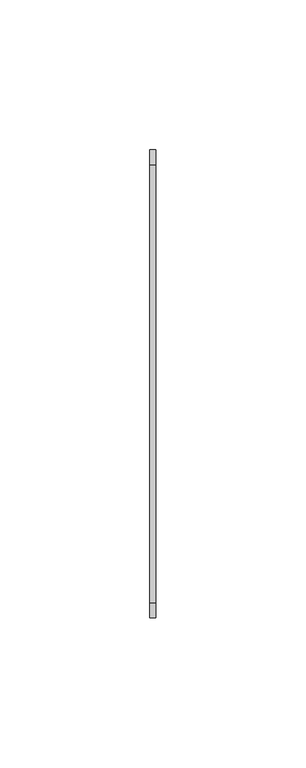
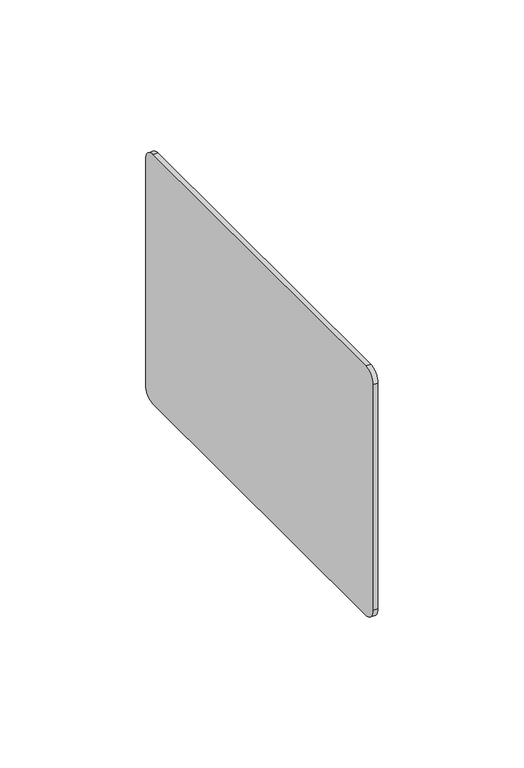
"""IFC4 building model written with IfcOpenShell, lengths in millimetres: proxy geometry, Zakończenie RENODRAIN : Zakończenie RENODRAIN."""

import ifcopenshell
import ifcopenshell.guid

model = None  # the IFC model being written
_history = None  # IfcOwnerHistory: only IFC2X3 demands one
_inside = {}  # id of a spatial element -> (the spatial element, [elements in it])
_under = {}  # id of a project, library or spatial element -> (it, [spatial elements below it])
_declared = {}  # id of a project -> (the project, [libraries it declares])
_typed = {}  # id of a type object -> (the type object, [elements of that type])
_made_of = {}  # id of a material, layer set ... -> (it, [elements and type objects made of it])


def new_model(schema):
    """Start an empty IFC model of exactly this schema.

    Asked for "IFC4X3", IfcOpenShell would pick the latest addendum, in which some entities
    have other attributes; the version numbers below select the first issue.
    IFC2X3 requires an IfcOwnerHistory on every rooted entity: one is made here for all.
    """
    global model, _history
    if schema == "IFC4X3":
        model = ifcopenshell.file(schema_version=(4, 3, 0, 0))
    else:
        model = ifcopenshell.file(schema=schema)
    _inside.clear()
    _under.clear()
    _declared.clear()
    _typed.clear()
    _made_of.clear()
    _history = None
    if model.schema == "IFC2X3":
        org = make("IfcOrganization", Name="unknown")
        user = make(
            "IfcPersonAndOrganization",
            ThePerson=make("IfcPerson", FamilyName="unknown"),
            TheOrganization=org,
        )
        app = make(
            "IfcApplication",
            ApplicationDeveloper=org,
            Version="unknown",
            ApplicationFullName="unknown",
            ApplicationIdentifier="unknown",
        )
        _history = make(
            "IfcOwnerHistory",
            OwningUser=user,
            OwningApplication=app,
            ChangeAction="ADDED",
            CreationDate=0,
        )
    return model


def make(cls, **values):
    """One entity of the class cls with the attributes given. An attribute that is None is left unset."""
    return model.create_entity(
        cls, **{name: value for name, value in values.items() if value is not None}
    )


def rooted(cls, **values):
    """An entity with a GlobalId (a new one), such as an element, a storey or a relation."""
    return make(cls, GlobalId=ifcopenshell.guid.new(), OwnerHistory=_history, **values)


def si_unit(unit_type, name, prefix=None):
    """IfcSIUnit, for example si_unit("LENGTHUNIT", "METRE", prefix="MILLI")."""
    return make("IfcSIUnit", UnitType=unit_type, Prefix=prefix, Name=name)


def assignment(units):
    """IfcUnitAssignment: the units of a project."""
    return None if units is None else make("IfcUnitAssignment", Units=units)


def point(xyz):
    """IfcCartesianPoint."""
    return None if xyz is None else make("IfcCartesianPoint", Coordinates=xyz)


def direction(xyz):
    """IfcDirection."""
    return None if xyz is None else make("IfcDirection", DirectionRatios=xyz)


def frame(location, z_axis=None, x_axis=None):
    """IfcAxis2Placement3D, a coordinate frame: its origin and axes. An axis left out is left unset."""
    return make(
        "IfcAxis2Placement3D",
        Location=point(location),
        Axis=direction(z_axis),
        RefDirection=direction(x_axis),
    )


def frame_2d(location, x_axis=None):
    """IfcAxis2Placement2D, a coordinate frame in the plane: its origin and x axis."""
    return make(
        "IfcAxis2Placement2D", Location=point(location), RefDirection=direction(x_axis)
    )


def origin():
    """The frame at (0, 0, 0) with its axes left unset."""
    return frame((0.0, 0.0, 0.0))


def place(relative_to, where):
    """IfcLocalPlacement: puts the frame where relative to a parent placement (None: the world)."""
    return make(
        "IfcLocalPlacement", PlacementRelTo=relative_to, RelativePlacement=where
    )


def context(
    kind, dimensions, precision=None, world=None, true_north=None, identifier=None
):
    """IfcGeometricRepresentationContext, for example the 3D "Model" context."""
    return make(
        "IfcGeometricRepresentationContext",
        ContextIdentifier=identifier,
        ContextType=kind,
        CoordinateSpaceDimension=dimensions,
        Precision=precision,
        WorldCoordinateSystem=world,
        TrueNorth=true_north,
    )


def project(units=None, contexts=None):
    """IfcProject with its units and contexts."""
    return rooted(
        "IfcProject",
        Name="project",
        RepresentationContexts=contexts,
        UnitsInContext=assignment(units),
    )


def spatial(cls, under=None, at=None, **own):
    """A site, building, storey or space (cls), placed at a placement, below another one or the project."""
    s = rooted(cls, ObjectPlacement=at, **own)
    if under is not None:
        _under.setdefault(under.id(), (under, []))[1].append(s)
    return s


def polyline(points):
    """IfcPolyline through the points."""
    return make("IfcPolyline", Points=[point(p) for p in points])


def circle_curve(where, radius):
    """IfcCircle in the frame where."""
    return make("IfcCircle", Position=where, Radius=radius)


def trimmed(basis, trim1, trim2, sense, master):
    """IfcTrimmedCurve: the piece of a basis curve between two trims."""
    return make(
        "IfcTrimmedCurve",
        BasisCurve=basis,
        Trim1=trim1,
        Trim2=trim2,
        SenseAgreement=sense,
        MasterRepresentation=master,
    )


def segment(curve, same_sense, transition):
    """IfcCompositeCurveSegment."""
    return make(
        "IfcCompositeCurveSegment",
        Transition=transition,
        SameSense=same_sense,
        ParentCurve=curve,
    )


def composite_curve(segments, self_intersect=None):
    """IfcCompositeCurve: segments joined end to end."""
    return make("IfcCompositeCurve", Segments=segments, SelfIntersect=self_intersect)


def outline(outer, holes=None, kind="AREA"):
    """IfcArbitraryClosedProfileDef: a profile drawn as a closed curve; with holes, ...WithVoids."""
    if holes is None:
        return make("IfcArbitraryClosedProfileDef", ProfileType=kind, OuterCurve=outer)
    return make(
        "IfcArbitraryProfileDefWithVoids",
        ProfileType=kind,
        OuterCurve=outer,
        InnerCurves=holes,
    )


def extrude(swept, where, along, depth):
    """IfcExtrudedAreaSolid: the profile swept, set in the frame where, extruded along a direction by depth."""
    return make(
        "IfcExtrudedAreaSolid",
        SweptArea=swept,
        Position=where,
        ExtrudedDirection=direction(along),
        Depth=depth,
    )


def shape(context_of_items, identifier, shape_type, items):
    """IfcShapeRepresentation: the items that make up one representation, for example the "Body"."""
    return make(
        "IfcShapeRepresentation",
        ContextOfItems=context_of_items,
        RepresentationIdentifier=identifier,
        RepresentationType=shape_type,
        Items=items,
    )


def source(mapping_origin, context_of_items, identifier, shape_type, items):
    """IfcRepresentationMap: a shape defined once, which mapped items show again and again."""
    return make(
        "IfcRepresentationMap",
        MappingOrigin=mapping_origin,
        MappedRepresentation=shape(context_of_items, identifier, shape_type, items),
    )


def transform(
    local_origin,
    x_axis=None,
    y_axis=None,
    z_axis=None,
    scale=None,
    scale2=None,
    scale3=None,
    uniform=True,
):
    """IfcCartesianTransformationOperator3D, or its non-uniform kind. x_axis, y_axis, z_axis: its Axis1, 2, 3."""
    if uniform:
        return make(
            "IfcCartesianTransformationOperator3D",
            Axis1=direction(x_axis),
            Axis2=direction(y_axis),
            LocalOrigin=point(local_origin),
            Scale=scale,
            Axis3=direction(z_axis),
        )
    return make(
        "IfcCartesianTransformationOperator3DnonUniform",
        Axis1=direction(x_axis),
        Axis2=direction(y_axis),
        LocalOrigin=point(local_origin),
        Scale=scale,
        Axis3=direction(z_axis),
        Scale2=scale2,
        Scale3=scale3,
    )


def mapped(mapping_source, mapping_target):
    """IfcMappedItem: shows the shape of a source again, moved by a transform."""
    return make(
        "IfcMappedItem", MappingSource=mapping_source, MappingTarget=mapping_target
    )


def made_of(thing, what):
    """Note that an element or type object is made of a material, layer set ...; save() writes the relation."""
    if what is not None:
        _made_of.setdefault(what.id(), (what, []))[1].append(thing)
    return thing


def element(
    cls,
    number,
    at=None,
    inside=None,
    cuts=None,
    type_object=None,
    material=None,
    context=None,
    identifier="Body",
    shape_type=None,
    held_by="IfcProductDefinitionShape",
    body=None,
    shapes=None,
    **own,
):
    """One element of the class cls, such as IfcWall. Its Tag is "e" and its number.

    at: its placement. inside: the storey or other place that contains it. cuts: it is an
    opening in that element (IfcRelVoidsElement). A single representation is given by context,
    identifier, shape_type and body (its items); several are given by shapes. held_by: the class
    of the entity that holds the representations. save() writes the other relations.
    """
    e = rooted(cls, Tag="e%d" % number, ObjectPlacement=at, **own)
    if body is not None:
        shapes = [shape(context, identifier, shape_type, body)]
    if shapes is not None:
        e.Representation = make(held_by, Representations=shapes)
    if inside is not None:
        _inside.setdefault(inside.id(), (inside, []))[1].append(e)
    if cuts is not None:
        rooted(
            "IfcRelVoidsElement", RelatingBuildingElement=cuts, RelatedOpeningElement=e
        )
    if type_object is not None:
        _typed.setdefault(type_object.id(), (type_object, []))[1].append(e)
    return made_of(e, material)


def aggregate(whole, parts):
    """IfcRelAggregates: a whole, such as a stair, and the parts it consists of."""
    return rooted("IfcRelAggregates", RelatingObject=whole, RelatedObjects=parts)


def save(model, path):
    """Write the relations noted so far, then the file.

    IfcRelAggregates (storeys below a building ...), IfcRelContainedInSpatialStructure (elements
    in a storey), IfcRelDefinesByType, IfcRelAssociatesMaterial and IfcRelDeclares: one each for
    every whole, place, type object, material and project.
    """
    for whole, parts in _under.values():
        aggregate(whole, parts)
    for where, things in _inside.values():
        rooted(
            "IfcRelContainedInSpatialStructure",
            RelatedElements=things,
            RelatingStructure=where,
        )
    for kind, things in _typed.values():
        rooted("IfcRelDefinesByType", RelatedObjects=things, RelatingType=kind)
    for what, things in _made_of.values():
        rooted("IfcRelAssociatesMaterial", RelatedObjects=things, RelatingMaterial=what)
    for by, libraries in _declared.values():
        rooted("IfcRelDeclares", RelatingContext=by, RelatedDefinitions=libraries)
    model.write(path)


def generic_models_f545b3be(model_context):
    return source(origin(), model_context, "Body", "SweptSolid", [
        extrude(outline(composite_curve([segment(trimmed(circle_curve(frame_2d((-141.0, 37.0)), 5.0), [point((-146.0, 37.0))], [point((-141.0, 42.0))], False, "CARTESIAN"), True, "CONTINUOUS"), segment(polyline([(-141.0, 42.0), (5.0, 42.0)]), True, "CONTINUOUS"), segment(trimmed(circle_curve(frame_2d((5.0, 37.0)), 5.0), [point((5.0, 42.0))], [point((10.0, 37.0))], False, "CARTESIAN"), True, "CONTINUOUS"), segment(polyline([(10.0, 37.0), (10.0, -57.5000001)]), True, "CONTINUOUS"), segment(trimmed(circle_curve(frame_2d((5.0, -57.5000001)), 5.0), [point((10.0, -57.5000001))], [point((5.0, -62.5000001))], False, "CARTESIAN"), True, "CONTINUOUS"), segment(polyline([(5.0, -62.5000001), (-141.0, -62.5000001)]), True, "CONTINUOUS"), segment(trimmed(circle_curve(frame_2d((-141.0, -57.5000001)), 5.0), [point((-141.0, -62.5000001))], [point((-146.0, -57.5000001))], False, "CARTESIAN"), True, "CONTINUOUS"), segment(polyline([(-146.0, -57.5000001), (-146.0, 37.0)]), True, "CONTINUOUS")], self_intersect=False)), frame((-3.0, 0.0, 0.0), z_axis=(1.0, 0.0, 0.0), x_axis=(0.0, 1.0, 0.0)), (0.0, 0.0, 1.0), 2.0),
    ])


if __name__ == "__main__":
    model = new_model("IFC4")
    model_context = context("Model", 3, world=origin())
    ifc_project = project(units=[si_unit("LENGTHUNIT", "METRE", prefix="MILLI")], contexts=[model_context])
    site = spatial("IfcSite", under=ifc_project)
    building = spatial("IfcBuilding", under=site)
    placement = place(None, origin())
    generic_models_shape = generic_models_f545b3be(model_context)
    element("IfcBuildingElementProxy", 1, Name="Zakończenie RENODRAIN : Zakończenie RENODRAIN", ObjectType="Zakończenie RENODRAIN : Zakończenie RENODRAIN", at=placement, inside=building, context=model_context, shape_type="MappedRepresentation", body=[
        mapped(generic_models_shape, transform((0.0, 0.0, 0.0), x_axis=(1.0, 0.0, 0.0), y_axis=(0.0, 1.0, 0.0), z_axis=(0.0, 0.0, 1.0))),
    ])
    save(model, "model.ifc")
